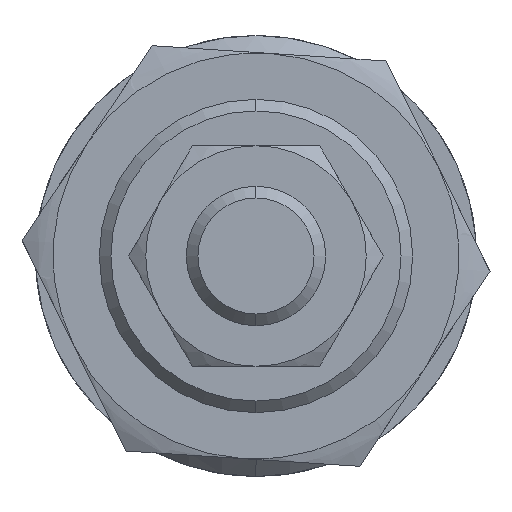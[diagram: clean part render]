
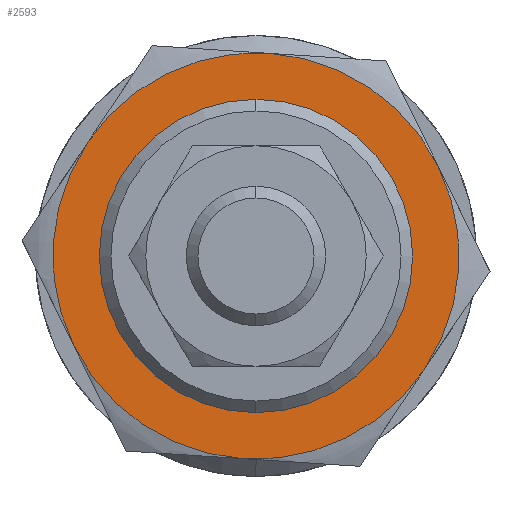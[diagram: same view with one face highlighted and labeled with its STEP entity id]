
A CAD part, left-side view. The second image highlights one B-rep face of the part: STEP entity #2593.
In plain terms, the highlighted planar face has unit normal (-1, 0, 0) as drawn and (0, 0, -1) by its records, which use the part's own axes.
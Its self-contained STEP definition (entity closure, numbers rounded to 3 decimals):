
#50 = VERTEX_POINT ( 'NONE', #1328 ) ;
#106 = VERTEX_POINT ( 'NONE', #1082 ) ;
#136 = VERTEX_POINT ( 'NONE', #846 ) ;
#155 = DIRECTION ( 'NONE',  ( 0., 0., 1. ) ) ;
#175 = AXIS2_PLACEMENT_3D ( 'NONE', #1264, #1086, #1663 ) ;
#280 = CARTESIAN_POINT ( 'NONE',  ( 0., 0., -5. ) ) ;
#295 = DIRECTION ( 'NONE',  ( 1., 0., 0. ) ) ;
#300 = DIRECTION ( 'NONE',  ( 1., 0., 0. ) ) ;
#311 = VERTEX_POINT ( 'NONE', #2166 ) ;
#327 = EDGE_CURVE ( 'NONE', #1796, #50, #1977, .T. ) ;
#329 = AXIS2_PLACEMENT_3D ( 'NONE', #790, #2569, #3272 ) ;
#351 = CARTESIAN_POINT ( 'NONE',  ( 0., 0., -5. ) ) ;
#431 = AXIS2_PLACEMENT_3D ( 'NONE', #280, #155, #1099 ) ;
#475 = EDGE_CURVE ( 'NONE', #1834, #1176, #1497, .T. ) ;
#538 = CIRCLE ( 'NONE', #2275, 17.5 ) ;
#640 = FACE_BOUND ( 'NONE', #1368, .T. ) ;
#642 = ORIENTED_EDGE ( 'NONE', *, *, #1795, .F. ) ;
#754 = DIRECTION ( 'NONE',  ( 0., 0., 1. ) ) ;
#790 = CARTESIAN_POINT ( 'NONE',  ( 0., 0., -5. ) ) ;
#846 = CARTESIAN_POINT ( 'NONE',  ( 8.75, 15.155, -5. ) ) ;
#865 = FACE_OUTER_BOUND ( 'NONE', #2080, .T. ) ;
#932 = CIRCLE ( 'NONE', #2526, 17.5 ) ;
#955 = CARTESIAN_POINT ( 'NONE',  ( -17.5, 0., -5. ) ) ;
#957 = CIRCLE ( 'NONE', #3003, 17.5 ) ;
#976 = CIRCLE ( 'NONE', #329, 17.5 ) ;
#978 = CARTESIAN_POINT ( 'NONE',  ( 8.75, -15.155, -5. ) ) ;
#1033 = EDGE_CURVE ( 'NONE', #2441, #106, #1170, .T. ) ;
#1082 = CARTESIAN_POINT ( 'NONE',  ( 12.5, 0., -5. ) ) ;
#1086 = DIRECTION ( 'NONE',  ( 0., 0., 1. ) ) ;
#1099 = DIRECTION ( 'NONE',  ( 1., 0., 0. ) ) ;
#1170 = CIRCLE ( 'NONE', #3348, 12.5 ) ;
#1176 = VERTEX_POINT ( 'NONE', #955 ) ;
#1200 = ORIENTED_EDGE ( 'NONE', *, *, #1463, .T. ) ;
#1248 = DIRECTION ( 'NONE',  ( 0., 0., 1. ) ) ;
#1264 = CARTESIAN_POINT ( 'NONE',  ( 0., 0., -5. ) ) ;
#1328 = CARTESIAN_POINT ( 'NONE',  ( 17.5, 0., -5. ) ) ;
#1346 = CARTESIAN_POINT ( 'NONE',  ( 0., 0., -5. ) ) ;
#1368 = EDGE_LOOP ( 'NONE', ( #1200, #2896 ) ) ;
#1452 = DIRECTION ( 'NONE',  ( 0., 0., 1. ) ) ;
#1463 = EDGE_CURVE ( 'NONE', #106, #2441, #2672, .T. ) ;
#1479 = AXIS2_PLACEMENT_3D ( 'NONE', #351, #2193, #295 ) ;
#1497 = CIRCLE ( 'NONE', #2908, 17.5 ) ;
#1590 = CARTESIAN_POINT ( 'NONE',  ( 0., 0., -5. ) ) ;
#1624 = DIRECTION ( 'NONE',  ( 1., 0., 0. ) ) ;
#1663 = DIRECTION ( 'NONE',  ( 1., 0., 0. ) ) ;
#1746 = DIRECTION ( 'NONE',  ( 0., 0., 1. ) ) ;
#1795 = EDGE_CURVE ( 'NONE', #136, #1834, #932, .T. ) ;
#1796 = VERTEX_POINT ( 'NONE', #978 ) ;
#1820 = ORIENTED_EDGE ( 'NONE', *, *, #3315, .F. ) ;
#1834 = VERTEX_POINT ( 'NONE', #2304 ) ;
#1882 = DIRECTION ( 'NONE',  ( 1., 0., 0. ) ) ;
#1884 = EDGE_CURVE ( 'NONE', #1176, #311, #957, .T. ) ;
#1955 = ORIENTED_EDGE ( 'NONE', *, *, #2007, .F. ) ;
#1977 = CIRCLE ( 'NONE', #175, 17.5 ) ;
#2007 = EDGE_CURVE ( 'NONE', #50, #136, #976, .T. ) ;
#2046 = CARTESIAN_POINT ( 'NONE',  ( 0., 0., -5. ) ) ;
#2080 = EDGE_LOOP ( 'NONE', ( #1955, #3165, #1820, #3075, #3293, #642 ) ) ;
#2166 = CARTESIAN_POINT ( 'NONE',  ( -8.75, -15.155, -5. ) ) ;
#2193 = DIRECTION ( 'NONE',  ( 0., 0., 1. ) ) ;
#2237 = CARTESIAN_POINT ( 'NONE',  ( 0., 0., -5. ) ) ;
#2275 = AXIS2_PLACEMENT_3D ( 'NONE', #2046, #1452, #3360 ) ;
#2304 = CARTESIAN_POINT ( 'NONE',  ( -8.75, 15.155, -5. ) ) ;
#2400 = CARTESIAN_POINT ( 'NONE',  ( 0., 0., -5. ) ) ;
#2441 = VERTEX_POINT ( 'NONE', #2883 ) ;
#2526 = AXIS2_PLACEMENT_3D ( 'NONE', #2400, #754, #1624 ) ;
#2569 = DIRECTION ( 'NONE',  ( 0., 0., 1. ) ) ;
#2593 = ADVANCED_FACE ( 'NONE', ( #640, #865 ), #3298, .F. ) ;
#2672 = CIRCLE ( 'NONE', #1479, 12.5 ) ;
#2883 = CARTESIAN_POINT ( 'NONE',  ( -12.5, 0., -5. ) ) ;
#2896 = ORIENTED_EDGE ( 'NONE', *, *, #1033, .T. ) ;
#2908 = AXIS2_PLACEMENT_3D ( 'NONE', #2237, #3361, #1882 ) ;
#3003 = AXIS2_PLACEMENT_3D ( 'NONE', #1346, #1746, #300 ) ;
#3075 = ORIENTED_EDGE ( 'NONE', *, *, #1884, .F. ) ;
#3144 = DIRECTION ( 'NONE',  ( 1., 0., 0. ) ) ;
#3165 = ORIENTED_EDGE ( 'NONE', *, *, #327, .F. ) ;
#3272 = DIRECTION ( 'NONE',  ( 1., 0., 0. ) ) ;
#3293 = ORIENTED_EDGE ( 'NONE', *, *, #475, .F. ) ;
#3298 = PLANE ( 'NONE',  #431 ) ;
#3315 = EDGE_CURVE ( 'NONE', #311, #1796, #538, .T. ) ;
#3348 = AXIS2_PLACEMENT_3D ( 'NONE', #1590, #1248, #3144 ) ;
#3360 = DIRECTION ( 'NONE',  ( 1., 0., 0. ) ) ;
#3361 = DIRECTION ( 'NONE',  ( 0., 0., 1. ) ) ;
